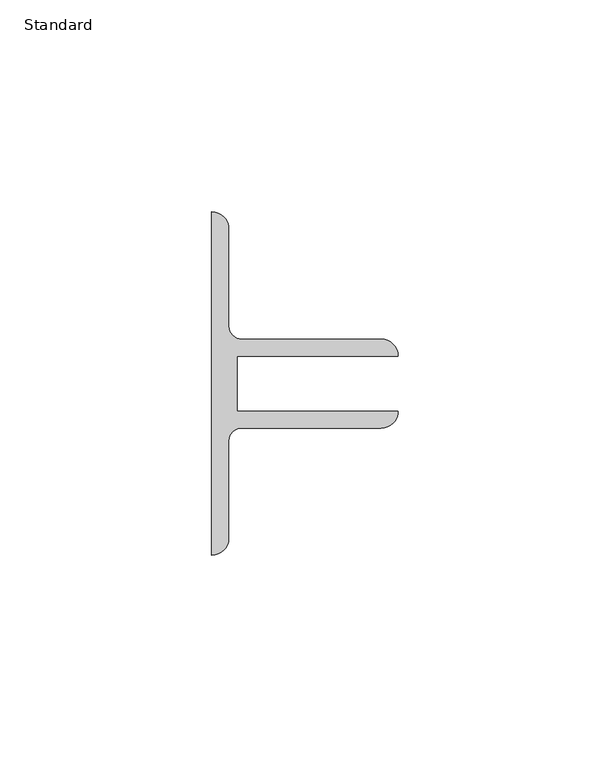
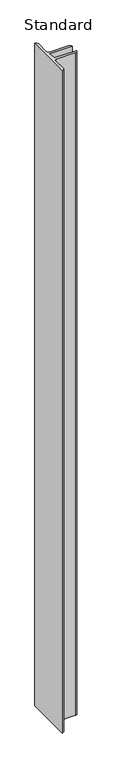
"""IFC4 building model written with IfcOpenShell, lengths in millimetres: furniture geometry, X_Partition-Channel-Duracube-Urinal Divider : Standard."""

from ifc_helpers import new_model, si_unit, point, frame, frame_2d, origin, place, context, project, spatial, polyline, circle_curve, trimmed, segment, composite_curve, outline, extrude, source, transform, mapped, element, save


def standard_36b0fdc9(model_context):
    return source(origin(), model_context, "Body", "SweptSolid", [
        extrude(outline(composite_curve([segment(polyline([(28.7003264, 0.0), (28.7003264, -13.0), (66.7003264, -13.0)]), True, "CONTINUOUS"), segment(trimmed(circle_curve(frame_2d((62.7003264, -13.0)), 4.0), [point((66.7003264, -13.0))], [point((62.7003264, -17.0))], False, "CARTESIAN"), True, "CONTINUOUS"), segment(polyline([(62.7003264, -17.0), (29.7003264, -17.0)]), True, "CONTINUOUS"), segment(trimmed(circle_curve(frame_2d((29.7003264, -20.0)), 3.0), [point((29.7003264, -17.0))], [point((26.7003264, -20.0))], True, "CARTESIAN"), True, "CONTINUOUS"), segment(polyline([(26.7003264, -20.0), (26.7003264, -43.0)]), True, "CONTINUOUS"), segment(trimmed(circle_curve(frame_2d((22.7003264, -43.0)), 4.0), [point((26.7003264, -43.0))], [point((22.7003264, -47.0))], False, "CARTESIAN"), True, "CONTINUOUS"), segment(polyline([(22.7003264, -47.0), (22.7003264, 34.0)]), True, "CONTINUOUS"), segment(trimmed(circle_curve(frame_2d((22.7003264, 30.0)), 4.0), [point((22.7003264, 34.0))], [point((26.7003264, 30.0))], False, "CARTESIAN"), True, "CONTINUOUS"), segment(polyline([(26.7003264, 30.0), (26.7003264, 7.0)]), True, "CONTINUOUS"), segment(trimmed(circle_curve(frame_2d((29.7003264, 7.0)), 3.0), [point((26.7003264, 7.0))], [point((29.7003264, 4.0))], True, "CARTESIAN"), True, "CONTINUOUS"), segment(polyline([(29.7003264, 4.0), (62.7003264, 4.0)]), True, "CONTINUOUS"), segment(trimmed(circle_curve(frame_2d((62.7003264, 0.0)), 4.0), [point((62.7003264, 4.0))], [point((66.7003264, 0.0))], False, "CARTESIAN"), True, "CONTINUOUS"), segment(polyline([(66.7003264, 0.0), (28.7003264, 0.0)]), True, "CONTINUOUS")], self_intersect=False)), frame((0.0, 0.0, 200.0), z_axis=(0.0, 0.0, 1.0), x_axis=(1.0, 0.0, 0.0)), (0.0, 0.0, 1.0), 1200.0),
    ])


if __name__ == "__main__":
    model = new_model("IFC4")
    model_context = context("Model", 3, world=origin())
    ifc_project = project(units=[si_unit("LENGTHUNIT", "METRE", prefix="MILLI")], contexts=[model_context])
    site = spatial("IfcSite", under=ifc_project)
    building = spatial("IfcBuilding", under=site)
    placement = place(None, origin())
    standard_shape = standard_36b0fdc9(model_context)
    element("IfcFurniture", 1, ObjectType="X_Partition-Channel-Duracube-Urinal Divider : Standard", at=placement, inside=building, context=model_context, shape_type="MappedRepresentation", body=[
        mapped(standard_shape, transform((0.0, 0.0, 0.0), x_axis=(1.0, 0.0, 0.0), y_axis=(0.0, 1.0, 0.0), z_axis=(0.0, 0.0, 1.0))),
    ])
    save(model, "model.ifc")
